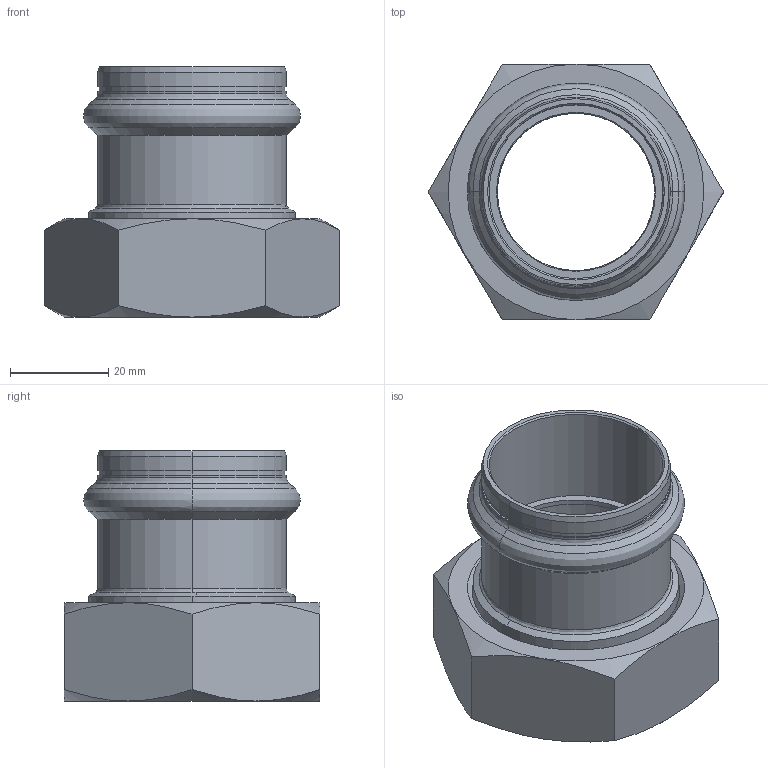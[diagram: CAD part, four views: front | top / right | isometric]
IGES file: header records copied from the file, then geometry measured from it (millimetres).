
Start section: Elysium IGES Interface
Global section: file name: C:\Users\Wallenburg\Desktop\3d modellen sudo\S-Pr VP\SP6359GV\6359GVW35112.igs; native system: CoCreate Modeling 17.00A  17-Jun-2010; preprocessor: CoCreate IGES_3D V2.2; author: Unknown; organization: Unknown; date: 20130124.130817; units: millimetre
Bounding box: 60.04 x 52 x 50.87 mm (x, y, z)
Volume: 29108.3 mm3; surface area: 18798 mm2
Topology: 2 solids, 2 shells, 84 faces, 192 edges, 114 vertices
Faces by surface type: bspline 84
